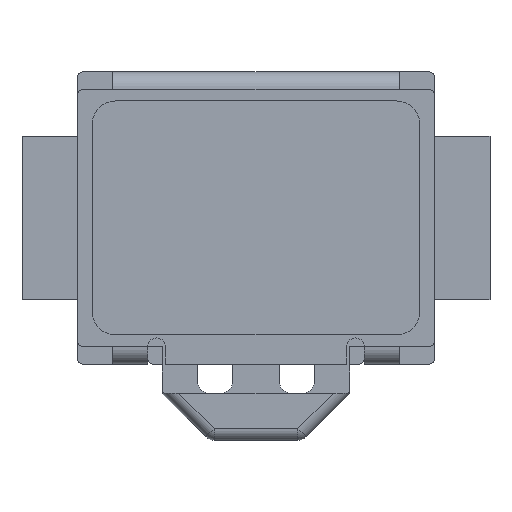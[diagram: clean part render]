
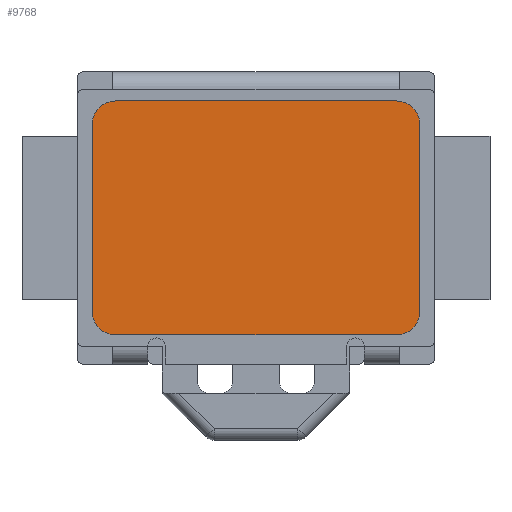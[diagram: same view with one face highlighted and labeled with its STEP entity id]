
A CAD part, front view. The second image highlights one B-rep face of the part: STEP entity #9768.
In plain terms, the highlighted planar face has unit normal (0, -1, 0).
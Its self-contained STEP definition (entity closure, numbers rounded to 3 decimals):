
#9559=CARTESIAN_POINT('',(-1.2,-0.2,-0.8));
#9560=DIRECTION('',(0.,-1.,0.));
#9561=DIRECTION('',(-1.,0.,0.));
#9562=AXIS2_PLACEMENT_3D('',#9559,#9560,#9561);
#9567=DIRECTION('',(0.,0.,1.));
#9568=VECTOR('',#9567,1.6);
#9569=CARTESIAN_POINT('',(-1.4,-0.2,-0.8));
#9570=LINE('',#9569,#9568);
#9574=CARTESIAN_POINT('',(-1.2,-0.2,0.8));
#9575=DIRECTION('',(0.,-1.,0.));
#9576=DIRECTION('',(0.,0.,1.));
#9577=AXIS2_PLACEMENT_3D('',#9574,#9575,#9576);
#9582=DIRECTION('',(1.,0.,0.));
#9583=VECTOR('',#9582,2.4);
#9584=CARTESIAN_POINT('',(-1.2,-0.2,1.));
#9585=LINE('',#9584,#9583);
#9589=CARTESIAN_POINT('',(1.2,-0.2,0.8));
#9590=DIRECTION('',(0.,-1.,0.));
#9591=DIRECTION('',(1.,0.,0.));
#9592=AXIS2_PLACEMENT_3D('',#9589,#9590,#9591);
#9597=DIRECTION('',(0.,0.,-1.));
#9598=VECTOR('',#9597,1.6);
#9599=CARTESIAN_POINT('',(1.4,-0.2,0.8));
#9600=LINE('',#9599,#9598);
#9604=CARTESIAN_POINT('',(1.2,-0.2,-0.8));
#9605=DIRECTION('',(0.,-1.,0.));
#9606=DIRECTION('',(0.,0.,-1.));
#9607=AXIS2_PLACEMENT_3D('',#9604,#9605,#9606);
#9612=DIRECTION('',(-1.,0.,0.));
#9613=VECTOR('',#9612,2.4);
#9614=CARTESIAN_POINT('',(1.2,-0.2,-1.));
#9615=LINE('',#9614,#9613);
#9675=CARTESIAN_POINT('',(-1.4,-0.2,-0.8));
#9676=CARTESIAN_POINT('',(-1.2,-0.2,-1.));
#9677=VERTEX_POINT('',#9675);
#9678=VERTEX_POINT('',#9676);
#9683=CARTESIAN_POINT('',(-1.2,-0.2,1.));
#9684=CARTESIAN_POINT('',(-1.4,-0.2,0.8));
#9685=VERTEX_POINT('',#9683);
#9686=VERTEX_POINT('',#9684);
#9691=CARTESIAN_POINT('',(1.4,-0.2,0.8));
#9692=CARTESIAN_POINT('',(1.2,-0.2,1.));
#9693=VERTEX_POINT('',#9691);
#9694=VERTEX_POINT('',#9692);
#9699=CARTESIAN_POINT('',(1.2,-0.2,-1.));
#9700=CARTESIAN_POINT('',(1.4,-0.2,-0.8));
#9701=VERTEX_POINT('',#9699);
#9702=VERTEX_POINT('',#9700);
#9746=CARTESIAN_POINT('',(0.,-0.2,0.));
#9747=DIRECTION('',(0.,1.,0.));
#9748=DIRECTION('',(0.,0.,-1.));
#9749=AXIS2_PLACEMENT_3D('',#9746,#9747,#9748);
#9750=PLANE('',#9749);
#9751=ORIENTED_EDGE('',*,*,#9736,.F.);
#9753=ORIENTED_EDGE('',*,*,#9752,.T.);
#9755=ORIENTED_EDGE('',*,*,#9754,.F.);
#9757=ORIENTED_EDGE('',*,*,#9756,.T.);
#9759=ORIENTED_EDGE('',*,*,#9758,.F.);
#9761=ORIENTED_EDGE('',*,*,#9760,.T.);
#9763=ORIENTED_EDGE('',*,*,#9762,.F.);
#9765=ORIENTED_EDGE('',*,*,#9764,.T.);
#9766=EDGE_LOOP('',(#9751,#9753,#9755,#9757,#9759,#9761,#9763,#9765));
#9767=FACE_OUTER_BOUND('',#9766,.F.);
#9563=CIRCLE('',#9562,0.2);
#9578=CIRCLE('',#9577,0.2);
#9593=CIRCLE('',#9592,0.2);
#9608=CIRCLE('',#9607,0.2);
#9736=EDGE_CURVE('',#9677,#9678,#9563,.T.);
#9752=EDGE_CURVE('',#9677,#9686,#9570,.T.);
#9754=EDGE_CURVE('',#9685,#9686,#9578,.T.);
#9756=EDGE_CURVE('',#9685,#9694,#9585,.T.);
#9758=EDGE_CURVE('',#9693,#9694,#9593,.T.);
#9760=EDGE_CURVE('',#9693,#9702,#9600,.T.);
#9762=EDGE_CURVE('',#9701,#9702,#9608,.T.);
#9764=EDGE_CURVE('',#9701,#9678,#9615,.T.);
#9768=ADVANCED_FACE('',(#9767),#9750,.F.);
